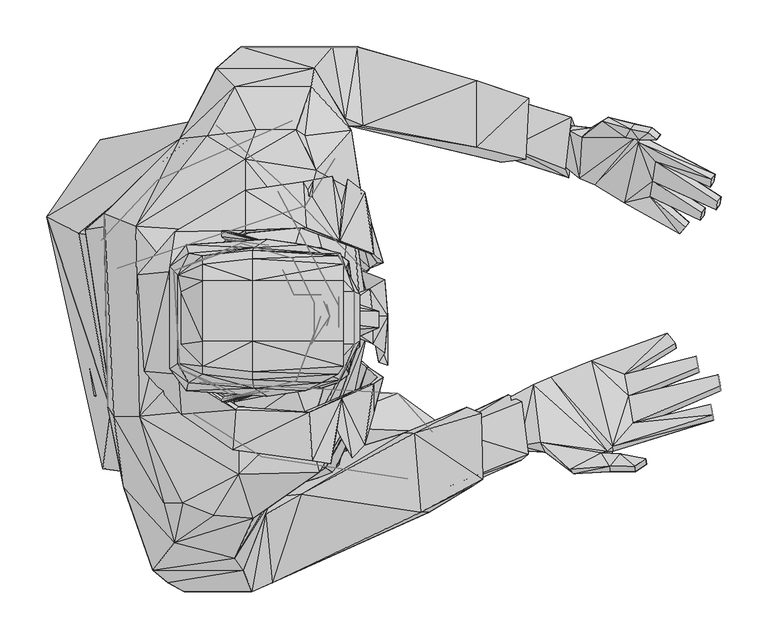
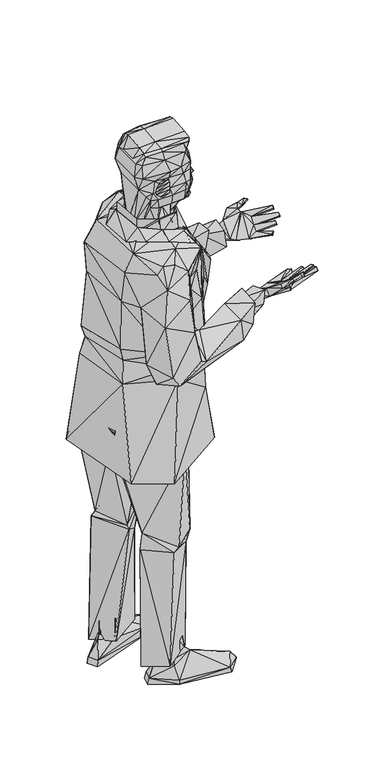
"""IFC4 building model written with IfcOpenShell, lengths in millimetres: geographic element geometry, Man10[1] : Man10[1]."""

from ifc_helpers import new_model, si_unit, origin, place, context, project, spatial, triangles, source, transform, mapped, element, save


def geographic_element_af0ef37f(model_context):
    return source(origin(), model_context, "Body", "Tessellation", [
        triangles([(250.4566601, 106.7888578, 1726.5831287), (241.6392659, 112.6671418, 1711.8873688), (241.6392659, 150.8760015, 1720.7048538), (235.7609546, 162.6325695, 1729.5223389), (241.6392659, 86.2148593, 1711.8873688), (250.4566601, 92.0931433, 1726.5831287), (241.6392659, 48.0059951, 1720.7048538), (235.7609546, 36.2494294, 1729.5223389)], [[1, 2, 3], [1, 3, 4], [5, 6, 7], [7, 6, 8]], closed=False),
        triangles([(157.8736485, 15.6754297, 1758.9137135), (71.1689617, 21.5537103, 1758.9137135), (112.3170269, 27.4319761, 1735.4006138), (154.9345837, 21.5537103, 1735.4006138), (143.1779339, 24.4928659, 1800.0616379), (74.1081219, 30.3711454, 1800.0616379), (88.8038364, 39.1885782, 1820.6358181), (141.708456, 33.3102919, 1823.5748829), (141.708456, 42.1277202, 1829.4530125), (88.8038364, 48.0060042, 1826.514093), (141.708456, 74.4582958, 1835.3314327), (88.8038364, 74.4582958, 1832.3922226), (141.708456, 139.1194425, 1841.2097076), (88.8038364, 139.1194425, 1838.2704975), (88.8038364, 156.7542945, 1832.3922226), (141.708456, 162.6325876, 1835.3314327), (141.708456, 171.4500182, 1829.4530125), (88.8038364, 165.5717251, 1826.514093), (143.1779339, 174.3891375, 1800.0616379), (74.1081219, 168.5108625, 1800.0616379), (157.8736485, 183.206568, 1758.9137135), (71.1689617, 177.3282931, 1758.9137135), (112.3170269, 174.3891375, 1735.4006138), (154.9345837, 180.2674305, 1735.4006138), (197.5521313, 177.3282931, 1758.9137135), (215.1870106, 168.5108625, 1800.0616379), (197.5521313, 21.5537103, 1758.9137135), (215.1870106, 30.3711454, 1800.0616379), (232.8218898, 39.1885782, 1826.514093), (238.7001102, 48.0060042, 1832.3922226), (238.7001102, 74.4582958, 1838.2704975), (238.7001102, 139.1194425, 1844.1489178), (238.7001102, 156.7542945, 1838.2704975), (232.8218898, 165.5717251, 1832.3922226), (62.351572, 144.9977175, 1800.0616379), (62.351572, 50.9451462, 1800.0616379), (65.2907322, 71.5191493, 1803.000848), (65.2907322, 127.3628564, 1803.000848), (53.534087, 153.8151389, 1758.9137135), (53.534087, 45.0668576, 1758.9137135), (71.1689617, 147.9368549, 1706.0092392), (71.1689617, 48.0059951, 1706.0092392), (85.8646717, 30.3711363, 1688.3742691), (103.4995419, 21.5537057, 1697.1917542), (124.0735768, 24.4928523, 1667.8003796), (100.5603863, 30.3711136, 1667.8003796), (124.0735768, 171.4499818, 1667.8003796), (100.5603863, 165.5717069, 1667.8003796), (103.4995419, 177.3282931, 1697.1917542), (85.8646717, 168.5108625, 1688.3742691), (221.065231, 39.1885782, 1811.8183331), (229.882716, 71.5191493, 1811.8183331), (229.882716, 127.3628564, 1811.8183331), (221.065231, 159.693432, 1811.8183331)], [[1, 2, 3], [1, 3, 4], [1, 5, 2], [2, 5, 6], [7, 6, 5], [7, 5, 8], [9, 10, 8], [7, 8, 10], [11, 12, 10], [11, 10, 9], [13, 14, 11], [12, 11, 14], [15, 14, 13], [15, 13, 16], [17, 18, 16], [15, 16, 18], [19, 20, 18], [19, 18, 17], [21, 22, 19], [19, 22, 20], [23, 22, 21], [23, 21, 24], [25, 21, 19], [25, 19, 26], [5, 1, 27], [5, 27, 28], [29, 8, 28], [28, 8, 5], [9, 8, 29], [9, 29, 30], [11, 9, 30], [11, 30, 31], [32, 13, 31], [11, 31, 13], [33, 16, 13], [33, 13, 32], [33, 34, 16], [16, 34, 17], [26, 19, 17], [26, 17, 34], [35, 36, 37], [37, 38, 35], [39, 40, 35], [36, 35, 40], [41, 42, 40], [40, 39, 41], [3, 2, 42], [42, 2, 40], [42, 43, 44], [42, 44, 3], [45, 44, 46], [46, 44, 43], [47, 48, 49], [49, 48, 50], [49, 50, 41], [49, 41, 23], [23, 41, 22], [22, 41, 39], [35, 20, 39], [39, 20, 22], [36, 40, 6], [6, 40, 2], [15, 18, 35], [35, 18, 20], [35, 38, 14], [35, 14, 15], [14, 38, 12], [12, 38, 37], [37, 36, 10], [37, 10, 12], [10, 36, 7], [7, 36, 6], [51, 30, 29], [51, 29, 28], [51, 52, 30], [30, 52, 31], [53, 32, 31], [53, 31, 52], [54, 33, 53], [53, 33, 32], [34, 33, 54], [34, 54, 26]], closed=False),
        triangles([(257.4868451, 3.8371968, 927.4628654), (254.4540905, 30.289487, 996.6960669), (240.6595837, -44.9035773, 1010.5753069), (258.6924946, -63.3548902, 839.4518858), (116.5624073, -79.8467432, 735.60212), (127.5025372, -80.8264255, 1096.7901026), (-9.167609, 1.3062783, 1079.6451462), (-17.8101048, -61.1608426, 771.8515789), (-77.5060704, 207.7690041, 785.2410233), (-43.4575718, 189.901272, 1086.5031578), (106.9286022, 315.4679898, 1047.641213), (-20.3966724, 289.6296869, 735.7655548), (185.7955815, 259.9508298, 993.9201462), (250.9465466, 146.222352, 997.5124414), (223.5145001, 172.0214767, 885.1718422), (179.5907277, 287.8726902, 813.8160233), (-26.3125904, 186.6355738, 1141.3671782), (103.4995419, 305.3442982, 1131.0801607), (1.1194569, 15.0222844, 1151.6541229), (113.7865139, -80.0099964, 1144.7961113), (224.8208157, -62.3751489, 1131.0801607), (175.5085277, 240.1932786, 1124.2221491), (262.5398433, 149.1614985, 1131.0801607), (257.1514004, 52.8229249, 1134.5091665), (-36.5995579, 193.330296, 1179.0861694), (103.4995419, 315.4679898, 1175.657091), (-9.167609, 11.5932876, 1196.2311258), (96.6415303, -67.2737098, 1189.3731142), (228.4131473, -66.1307064, 1185.9441811), (175.5085277, 240.1932786, 1168.7990793), (266.9485858, 152.4272149, 1185.9441811), (264.0094121, 46.2915013, 1185.9441811), (243.9252819, 284.11716, 1322.6143272), (244.088535, 240.1932786, 1326.5331287), (274.949551, 36.0045156, 1336.8201462), (220.0855488, -60.4157027, 1340.249152), (274.949551, 158.4687974, 1336.8201462), (155.5783489, -88.17426, 1313.1981869), (4.7998524, -81.7635049, 1394.4535469), (-12.7598316, 4.7353035, 1371.110059), (-16.1888863, 196.7593018, 1360.8231869), (70.8424282, 287.38284, 1338.9428364), (-16.3521507, 210.4753069, 1456.835059), (-6.2284472, -5.5516744, 1473.9802334), (257.8045582, 231.0493236, 1446.5481869), (268.0915393, 168.1026571, 1446.5481869), (268.0915393, 29.3098093, 1446.5481869), (202.9405742, -56.9866924, 1446.5481869), (17.6112797, 197.2491702, 1529.0073978), (21.2035999, -5.5516693, 1532.2731869), (58.9225163, 145.6508934, 1566.5630997), (134.3605488, 189.9013265, 1556.2760822), (134.3605488, 268.7683149, 1545.9892101), (65.7805279, 42.4543263, 1566.5630997), (127.5025372, 4.7353206, 1566.5630997), (127.5025372, -67.2736735, 1549.4180706), (213.2275372, -65.3142546, 1521.9861694), (196.0825626, -0.9796786, 1546.4790058), (209.7985858, 257.0117287, 1521.9861694), (192.6535931, 195.616312, 1543.2132168), (247.5175953, 299.6293127, 1456.835059), (198.2052891, 293.9143091, 1505.4942982), (188.4081219, 300.4457418, 1521.8229527), (145.9538364, 300.4457418, 1521.8229527), (93.7023746, 293.9143091, 1505.4942982), (64.3109501, 290.6485927, 1446.7114037), (160.3880299, -97.9714, 1415.1192913), (152.5458668, -107.76854, 1464.0029354), (142.9682628, -114.2999727, 1493.2851597), (100.3665936, -111.0342382, 1528.8837135), (67.3427418, -97.9713909, 1525.4029667), (47.2713879, -97.9713909, 1502.656826), (271.3572194, 29.3098093, 1446.5481869), (202.6139408, -0.979678, 1553.0104385), (124.236848, 1.4696052, 1576.3603214), (62.5148388, 39.18861, 1582.8917542), (52.3911335, 148.9166098, 1582.8917542), (134.3605488, 193.1670429, 1569.3389477), (199.1849895, 195.616312, 1549.7447948), (271.3572194, 168.1026571, 1446.5481869), (281.48102, 158.4687974, 1336.8201462), (267.3923451, 152.4272149, 1185.9441811), (264.78233, 149.1614985, 1131.0801607), (281.48102, 36.0045156, 1336.8201462), (266.4318478, 46.2915013, 1185.9441811), (259.3939053, 52.8229249, 1134.5091665), (19.7340176, 145.6508934, 1543.7031578), (58.9225163, 191.3708952, 1556.7660233), (134.3605488, 235.6213011, 1555.2185886), (195.9192913, 244.6020211, 1535.6241451), (26.5920292, 42.4543218, 1543.7031578), (65.7805279, -3.2656814, 1556.7660233), (120.9711498, -40.9846758, 1560.0316669), (205.8797298, -53.2311031, 1533.4161404), (268.4181546, 200.923092, 1336.8201462), (261.5601429, 233.416948, 1446.5481869), (260.4170986, 168.7557786, 1185.9441811), (261.5601429, -36.0044702, 1446.5481869), (271.6838528, 0.0816602, 1336.8201462), (264.0094121, 33.2286426, 1185.9441811), (236.9855892, 14.1650692, 1499.77924), (225.5556546, -56.0477917, 1511.2093563), (248.4155964, -49.5163589, 1475.2864037), (232.087051, -20.1249367, 1496.5135963), (227.1068317, 250.4394918, 1509.0475697), (235.2711589, 181.8594845, 1498.1464909), (243.4353772, 247.1737754, 1482.9218388), (236.9039989, 219.4151864, 1499.2504932), (132.200697, -169.8171237, 1315.1188545), (123.1877842, -156.7542764, 1424.7429771), (58.2591847, -140.4256855, 1470.8118221), (35.6014606, -169.8171237, 1364.7026012), (51.633717, -182.8799709, 1191.9864721), (13.8588924, -96.8155749, 1200.0265337), (141.2895862, -192.6771382, 1225.37971), (156.0192013, -109.8566393, 1272.3464653), (163.1287601, -182.8799709, 1209.4215998), (193.9601994, -88.79577, 1254.9671482), (69.1863293, -192.6771382, 1163.33575), (43.8654911, -103.3470258, 1124.6918879), (330.3929509, -107.7685673, 1181.5043358), (302.9779637, -23.481495, 1153.4173874), (321.5370961, -107.7685673, 1255.1486778), (314.7111683, -23.481486, 1264.2160023), (385.9351275, -2.1856179, 1280.3812946), (387.4772573, -72.9194272, 1272.3647781), (377.7265079, -79.4508644, 1204.0839895), (370.6657107, 4.3457998, 1174.8253103), (381.0852056, 281.4729355, 1283.4257309), (230.8624164, 307.5986664, 1126.6714182), (407.2109365, 265.7735304, 1185.1360182), (433.3366673, 269.0392467, 1302.9576782), (260.2538273, 304.3329319, 1244.2371346), (126.3595837, 302.5556057, 1113.6085527), (240.6595837, 312.3309357, 1250.7685673), (90.4366764, 302.5556057, 1224.6428364), (371.2881291, 352.6971854, 1205.0485382), (426.8053073, 333.9644989, 1217.7931818), (381.0852056, 352.6971854, 1267.0972218), (436.6023837, 333.9644989, 1289.8949581), (253.7224491, 388.6200291, 1227.9086254), (201.4709873, 388.6200291, 1152.7971491), (129.6252728, 388.6200291, 1221.3770473), (227.5967182, 388.6200291, 1237.7057018), (208.0023655, 365.7599782, 1329.14576), (103.4995419, 365.7599782, 1342.2086254), (204.7366855, 346.1657527, 1456.5086254), (123.0937946, 346.1657527, 1456.5086254)], [[1, 2, 3], [1, 3, 4], [4, 3, 5], [5, 3, 6], [6, 7, 8], [6, 8, 5], [8, 7, 9], [9, 7, 10], [9, 10, 11], [9, 11, 12], [13, 14, 15], [13, 15, 16], [12, 11, 16], [16, 11, 13], [10, 17, 18], [10, 18, 11], [10, 7, 17], [17, 7, 19], [20, 19, 7], [20, 7, 6], [3, 21, 6], [6, 21, 20], [22, 23, 14], [22, 14, 13], [24, 21, 3], [24, 3, 2], [13, 11, 22], [22, 11, 18], [17, 25, 26], [17, 26, 18], [19, 27, 17], [17, 27, 25], [28, 27, 19], [28, 19, 20], [21, 29, 20], [20, 29, 28], [30, 31, 23], [30, 23, 22], [32, 29, 21], [32, 21, 24], [22, 18, 30], [30, 18, 26], [26, 33, 30], [30, 33, 34], [35, 36, 29], [35, 29, 32], [34, 37, 31], [34, 31, 30], [28, 29, 38], [38, 29, 36], [28, 39, 40], [28, 40, 27], [25, 27, 41], [41, 27, 40], [25, 41, 42], [25, 42, 26], [41, 40, 43], [43, 40, 44], [45, 46, 37], [45, 37, 34], [47, 48, 36], [47, 36, 35], [43, 44, 49], [49, 44, 50], [49, 51, 52], [49, 52, 53], [49, 50, 51], [51, 50, 54], [55, 54, 50], [55, 50, 56], [57, 58, 56], [56, 58, 55], [59, 53, 60], [60, 53, 52], [45, 61, 59], [59, 61, 62], [59, 62, 63], [59, 63, 53], [53, 63, 64], [53, 64, 65], [53, 65, 49], [43, 49, 66], [66, 49, 65], [45, 34, 33], [45, 33, 61], [41, 43, 66], [41, 66, 42], [42, 33, 26], [38, 36, 67], [67, 36, 48], [48, 57, 68], [48, 68, 67], [68, 57, 69], [69, 57, 56], [69, 56, 70], [70, 56, 71], [71, 56, 50], [50, 44, 72], [50, 72, 71], [72, 44, 39], [39, 44, 40], [28, 38, 39], [48, 47, 57], [57, 47, 58], [59, 60, 45], [45, 60, 46], [47, 73, 74], [47, 74, 58], [58, 74, 55], [55, 74, 75], [75, 76, 54], [75, 54, 55], [54, 76, 51], [51, 76, 77], [51, 77, 78], [51, 78, 52], [52, 78, 60], [60, 78, 79], [79, 80, 46], [79, 46, 60], [46, 80, 37], [81, 37, 80], [37, 81, 82], [82, 31, 37], [31, 82, 23], [83, 23, 82], [73, 47, 35], [35, 84, 73], [84, 35, 85], [32, 85, 35], [85, 32, 24], [24, 86, 85], [77, 87, 88], [77, 88, 78], [78, 88, 89], [89, 90, 79], [89, 79, 78], [87, 77, 91], [91, 77, 76], [91, 76, 92], [93, 92, 75], [75, 92, 76], [94, 93, 74], [74, 93, 75], [81, 80, 95], [95, 80, 96], [81, 95, 97], [81, 97, 82], [82, 97, 83], [98, 73, 99], [99, 73, 84], [84, 85, 100], [84, 100, 99], [100, 85, 86], [94, 74, 101], [94, 101, 102], [73, 98, 101], [101, 98, 103], [101, 103, 104], [101, 104, 102], [90, 105, 106], [90, 106, 79], [107, 96, 106], [106, 96, 80], [107, 106, 108], [108, 106, 105], [38, 67, 109], [109, 67, 110], [110, 111, 112], [110, 112, 109], [112, 111, 39], [39, 111, 72], [72, 111, 71], [71, 111, 70], [69, 70, 111], [69, 111, 110], [67, 68, 110], [110, 68, 69], [113, 112, 114], [114, 112, 39], [109, 112, 113], [109, 113, 115], [115, 116, 109], [109, 116, 38], [116, 115, 117], [116, 117, 118], [117, 115, 119], [119, 115, 113], [113, 114, 120], [113, 120, 119], [121, 119, 122], [122, 119, 120], [117, 119, 121], [117, 121, 123], [124, 118, 123], [123, 118, 117], [125, 124, 126], [126, 124, 123], [123, 121, 127], [123, 127, 126], [128, 127, 122], [122, 127, 121], [38, 116, 114], [38, 114, 39], [114, 116, 120], [120, 116, 118], [118, 124, 122], [118, 122, 120], [122, 124, 128], [128, 124, 125], [129, 130, 131], [129, 131, 132], [129, 133, 130], [130, 133, 134], [135, 136, 134], [135, 134, 133], [135, 33, 136], [136, 33, 42], [137, 138, 131], [137, 131, 130], [137, 139, 138], [138, 139, 140], [129, 132, 140], [129, 140, 139], [133, 129, 139], [133, 139, 141], [142, 141, 137], [137, 141, 139], [142, 137, 130], [142, 130, 134], [136, 143, 134], [134, 143, 142], [144, 141, 142], [142, 143, 144], [144, 135, 141], [141, 135, 133], [135, 144, 145], [135, 145, 33], [146, 145, 143], [143, 145, 144], [146, 143, 136], [146, 136, 42], [62, 61, 147], [62, 147, 63], [63, 147, 64], [148, 64, 147], [148, 66, 65], [148, 65, 64], [146, 42, 66], [146, 66, 148], [147, 145, 148], [148, 145, 146], [61, 33, 145], [61, 145, 147]], closed=False),
        triangles([(417.4872714, 15.2063518, 1236.8958675), (426.5448581, -36.8748295, 1262.6046181), (441.7307407, 28.2838295, 1239.9131252), (449.0942448, -33.116229, 1277.2083778), (520.3997761, -42.8683227, 1269.6655243), (460.2598423, 36.0999222, 1226.817849), (503.5494601, 54.0209759, 1225.4698208), (526.0866383, -37.448693, 1271.1741531), (632.9766254, -4.0360752, 1271.3347538), (630.9639576, 7.5375276, 1265.6217304), (548.2899342, -12.639355, 1253.8744823), (640.8143011, 27.1361253, 1257.0521954), (638.8016333, 38.7097148, 1251.339172), (543.2578649, 16.2946324, 1239.5917786), (617.4843298, 46.9260056, 1245.6261486), (615.4715166, 58.4996042, 1239.9131252), (539.2323475, 39.4418194, 1228.1657318), (593.1476612, 72.502683, 1231.3435902), (584.7001027, 82.957182, 1225.6305668), (480.6273854, -61.9534677, 1297.2843327), (514.006162, -44.2248033, 1291.5713093), (534.072379, -45.2471473, 1297.3647057), (523.2154836, -59.0589496, 1303.077729), (549.7165913, -58.9622032, 1308.8711254), (561.5798206, -50.937207, 1306.0146137), (524.1943119, -64.6875078, 1291.3303356), (535.2959599, -52.2828371, 1282.6805729), (550.6954196, -64.5907568, 1297.123732), (562.558649, -56.5657515, 1294.2672203), (515.7192478, -54.0747562, 1271.0135525), (484.8236409, -67.022467, 1285.5370846), (454.2695103, -43.8137728, 1253.7137363), (521.6233569, -49.9040124, 1254.9813915), (544.2366932, 10.6660754, 1227.8445305), (527.0516956, -42.9981113, 1252.1248798), (506.0240911, 39.791353, 1210.7053877), (540.2111758, 33.8132681, 1216.4184837), (549.2687625, -18.2679132, 1242.1270889), (594.1266712, 66.8741385, 1219.5961967), (585.678931, 77.3286284, 1213.8831734), (618.4631945, 41.2974565, 1233.8787552), (616.4503086, 52.8710506, 1228.1657318), (641.7933111, 21.5075785, 1245.3049473), (639.7804979, 33.081168, 1239.5917786), (631.9427496, 1.9089815, 1253.8744823), (633.9556355, -9.6646206, 1259.5875057), (462.0004337, 26.0917145, 1220.8638519), (443.1990741, 19.8410105, 1222.2921078), (427.5236501, -42.5033786, 1250.8572247), (418.4660634, 9.5777936, 1225.1486195), (185.7955815, 124.4237189, 1573.7476902), (185.7955815, 71.5191493, 1573.7476902), (191.6738201, 127.3628564, 1544.3563156), (191.6738201, 68.5800027, 1544.3563156), (215.1870106, 124.423728, 1609.0173397), (215.1870106, 62.7017187, 1609.0173397), (71.1689617, 147.936864, 1706.0092392), (65.2907322, 97.9714364, 1573.7476902), (71.1689617, 48.0060133, 1706.0092392), (174.0389408, 150.8760015, 1573.7476902), (185.7955815, 124.423728, 1611.9565498), (156.4041706, 124.423728, 1614.89576), (156.4041706, 156.7542945, 1573.7476902), (100.5603863, 165.5717251, 1667.8003796), (106.4387066, 150.8760105, 1632.5305847), (85.8646717, 139.1194244, 1573.7476902), (124.0735768, 162.6325695, 1573.7476902), (71.1689617, 121.4845633, 1573.7476902), (85.8646717, 168.5108807, 1688.3742691), (185.7955815, 153.8151389, 1544.3563156), (174.0389408, 159.693432, 1544.3563156), (129.9518063, 165.5717069, 1544.3563156), (71.1689617, 142.05858, 1544.3563156), (59.4124119, 124.4237189, 1544.3563156), (53.534087, 97.9714273, 1544.3563156), (129.9518063, 162.6325876, 1632.5305847), (124.0735768, 33.3102919, 1573.7476902), (129.9518063, 33.3102964, 1632.5305847), (106.4387066, 42.1277293, 1632.5305847), (156.4041706, 62.7017187, 1614.89576), (156.4041706, 39.1885782, 1573.7476902), (172.5694629, 33.3102964, 1632.5305847), (185.7955815, 62.7017187, 1611.9565498), (215.1870106, 36.2494407, 1632.5305847), (59.4124119, 71.5191447, 1544.3563156), (71.1689617, 74.4582958, 1573.7476902), (71.1689617, 53.8842836, 1544.3563156), (85.8646717, 56.8234347, 1573.7476902), (129.9518063, 30.3711454, 1544.3563156), (174.0389408, 36.2494316, 1544.3563156), (185.7955815, 42.1277202, 1544.3563156), (174.0389408, 45.0668667, 1573.7476902), (85.8646717, 30.3711567, 1688.3742691), (100.5603863, 30.3711567, 1667.8003796), (127.0127415, 12.7363058, 1738.3396786), (115.2560917, 9.797157, 1732.461549), (153.4649968, 21.5537307, 1729.5223389), (147.5866764, 18.6145933, 1738.3396786), (159.3432353, 21.5537284, 1720.7048538), (109.3778713, 9.7971548, 1720.7048538), (109.3778713, 12.7363036, 1706.0092392), (159.3432353, 21.5537284, 1706.0092392), (159.3432353, 21.5537284, 1694.252544), (112.3170269, 15.675441, 1694.252544), (127.0127415, 18.6145887, 1679.5567841), (159.3432353, 23.1137213, 1679.5567841), (153.4649968, 23.9457177, 1670.7394444), (138.7692913, 23.9457177, 1670.7394444), (153.4649968, 172.3656963, 1670.7394444), (159.3432353, 174.3891556, 1679.5567841), (138.7692913, 172.3656963, 1670.7394444), (127.0127415, 177.3282931, 1679.5567841), (159.3432353, 177.3282931, 1694.252544), (112.3170269, 183.2065862, 1694.252544), (159.3432353, 177.3282931, 1706.0092392), (109.3778713, 186.1457236, 1706.0092392), (159.3432353, 180.2674487, 1720.7048538), (109.3778713, 192.0240167, 1720.7048538), (153.4649968, 180.2674487, 1729.5223389), (115.2560917, 192.0240167, 1732.461549), (127.0127415, 189.0848793, 1738.3396786), (147.5866764, 183.2066043, 1738.3396786), (172.5694629, 159.693432, 1632.5305847), (169.6302891, 24.492875, 1667.8003796), (124.0735768, 24.492875, 1667.8003796), (159.3432353, 21.5537284, 1697.1917542), (103.4995419, 21.5537284, 1697.1917542), (154.9345837, 21.5537307, 1735.4006138), (112.3170269, 27.432017, 1735.4006138), (154.9345837, 180.2674487, 1735.4006138), (159.3432353, 177.3282931, 1697.1917542), (112.3170269, 174.3891556, 1735.4006138), (103.4995419, 177.3282931, 1697.1917542), (169.6302891, 171.4500182, 1667.8003796), (124.0735768, 171.4500182, 1667.8003796), (215.1870106, 156.7542945, 1632.5305847), (215.1870106, 168.5108807, 1667.8003796), (209.3086812, 174.3891556, 1729.5223389), (197.5521313, 177.3283113, 1758.9137135), (157.8736485, 183.2066043, 1758.9137135), (215.1870106, 27.4320124, 1667.8003796), (215.1870106, 24.4928773, 1697.1917542), (209.3086812, 27.432017, 1729.5223389), (197.5521313, 21.553733, 1758.9137135), (157.8736485, 15.6754456, 1758.9137135), (215.1870106, 174.3891556, 1697.1917542), (235.7609546, 33.3103055, 1758.9137135), (221.065231, 39.1886009, 1811.8183331), (215.1870106, 30.3711658, 1800.0616379), (250.4566601, 71.5191856, 1764.7921337), (229.882716, 71.5191674, 1811.8183331), (250.4566601, 127.3628745, 1764.7921337), (229.882716, 127.3628745, 1811.8183331), (235.7609546, 168.5108807, 1758.9137135), (221.065231, 159.6934502, 1811.8183331), (215.1870106, 168.5108807, 1800.0616379), (235.7609546, 162.6326058, 1729.5223389), (232.8218898, 168.5108807, 1697.1917542), (229.882716, 162.6325876, 1667.8003796), (226.9435604, 147.936864, 1632.5305847), (250.4566601, 115.6063065, 1606.0782749), (250.4566601, 71.5191493, 1606.0782749), (226.9435604, 45.0668713, 1632.5305847), (229.882716, 33.310301, 1667.8003796), (232.8218898, 30.3711567, 1697.1917542), (235.7609546, 36.2494475, 1729.5223389), (238.7001102, 139.1194425, 1635.4697948), (256.3349895, 121.4845814, 1620.7740349), (247.5175953, 115.6063065, 1641.3480698), (256.3349895, 68.58003, 1620.7740349), (238.7001102, 53.8842973, 1635.4697948), (247.5175953, 74.4583004, 1641.3480698), (256.3349895, 74.4583049, 1735.4006138), (256.3349895, 124.4237371, 1735.4006138), (241.6392659, 42.1277293, 1667.8003796), (244.5784397, 39.1885873, 1688.3742691), (241.6392659, 48.0060133, 1720.7048538), (241.6392659, 153.8151571, 1667.8003796), (244.5784397, 159.693432, 1688.3742691), (241.6392659, 150.8760287, 1720.7048538), (250.4566601, 68.5800118, 1650.1654095), (250.4566601, 127.3628654, 1650.1654095), (250.4566601, 77.3974378, 1670.7394444), (250.4566601, 115.6063065, 1670.7394444), (241.6392659, 86.2148774, 1711.8873688), (241.6392659, 112.6671509, 1711.8873688), (250.4566601, 106.788876, 1726.5831287), (250.4566601, 92.0931614, 1726.5831287), (276.9090244, 106.7888669, 1676.6175739), (276.9090244, 89.1540149, 1676.6175739), (479.7964405, 299.3649211, 1287.7979931), (474.2936877, 262.0580413, 1259.7018883), (490.8048892, 248.5298337, 1265.6853893), (493.1274219, 292.2531459, 1303.3758213), (549.9119282, 291.8658149, 1314.6324017), (507.2556293, 241.3684612, 1258.8541203), (538.8174382, 222.1157483, 1265.1181274), (553.383991, 286.7703774, 1316.3455238), (630.2469229, 239.113766, 1329.5883202), (631.4697407, 247.4041756, 1335.8319798), (572.0838306, 266.2231577, 1304.9834267), (637.9798084, 223.3408007, 1322.7805962), (636.7568453, 215.050391, 1316.5370819), (569.0266408, 245.4971336, 1289.374641), (621.1833773, 211.7659985, 1306.4570286), (619.9605595, 203.4755888, 1300.2135143), (566.5808599, 228.9163143, 1276.8874672), (603.7755009, 196.0460096, 1287.0117039), (597.7690724, 189.4242662, 1279.4893433), (514.9245289, 309.0955227, 1329.2168312), (540.01097, 291.6274029, 1330.0067539), (553.9673129, 289.4124218, 1338.9599865), (545.6232365, 301.0401823, 1342.6460987), (564.362972, 297.156553, 1352.8780323), (573.318639, 289.6739792, 1352.3139679), (558.9960757, 296.1831749, 1328.9847233), (549.646065, 306.4568029, 1334.6657719), (568.3859822, 302.5731555, 1344.8978508), (577.3416492, 295.0905818, 1344.3336411), (547.051238, 301.1064573, 1316.0413273), (521.3392536, 313.6778011, 1321.8760002), (503.5649388, 302.2520269, 1288.0546635), (554.9405093, 298.6365681, 1304.6571384), (559.1125294, 292.8226969, 1302.8142277), (573.0496511, 250.9137361, 1281.3943142), (545.4633625, 234.3858569, 1256.2695396), (570.6038701, 234.3329168, 1268.9071404), (576.1068409, 271.6397603, 1297.0032452), (607.7985111, 201.4626121, 1279.031377), (601.7920827, 194.8408688, 1271.5090164), (625.2063875, 217.182601, 1298.4767017), (623.9833517, 208.8921913, 1292.2331875), (642.0026007, 228.7574032, 1314.8004147), (640.7798555, 220.4669935, 1308.5567551), (635.4927509, 252.8207781, 1327.8516529), (634.2699331, 244.5303685, 1321.6081387), (510.8840778, 249.5761179, 1255.9906322), (496.8391866, 256.6547374, 1253.7150444), (478.31648, 267.474662, 1251.7215614), (483.8194508, 304.7815237, 1279.8176662)], [[1, 2, 3], [3, 2, 4], [3, 4, 5], [3, 5, 6], [7, 6, 8], [8, 6, 5], [9, 10, 11], [9, 11, 8], [11, 12, 13], [13, 14, 11], [14, 15, 16], [16, 17, 14], [17, 18, 19], [17, 19, 7], [8, 11, 14], [14, 17, 7], [8, 14, 7], [4, 20, 21], [4, 21, 5], [22, 21, 23], [23, 21, 20], [22, 23, 24], [22, 24, 25], [26, 27, 28], [28, 27, 29], [30, 27, 26], [30, 26, 31], [31, 32, 30], [30, 32, 33], [34, 35, 36], [37, 34, 36], [38, 35, 34], [39, 37, 40], [40, 37, 36], [41, 34, 42], [37, 42, 34], [43, 38, 44], [34, 44, 38], [45, 46, 38], [38, 46, 35], [47, 36, 35], [47, 35, 33], [33, 32, 47], [47, 32, 48], [49, 50, 48], [48, 32, 49], [50, 1, 48], [3, 48, 1], [48, 3, 6], [48, 6, 47], [47, 6, 36], [36, 6, 7], [7, 19, 40], [7, 40, 36], [40, 19, 39], [18, 39, 19], [39, 18, 17], [17, 37, 39], [37, 17, 42], [16, 42, 17], [42, 16, 15], [15, 41, 42], [41, 15, 34], [14, 34, 15], [34, 14, 13], [13, 44, 34], [44, 13, 43], [12, 43, 13], [43, 12, 11], [11, 38, 43], [38, 11, 45], [10, 45, 11], [45, 10, 9], [9, 46, 45], [35, 46, 8], [8, 46, 9], [35, 8, 5], [35, 5, 33], [33, 5, 30], [21, 30, 5], [30, 21, 22], [22, 27, 30], [27, 22, 29], [25, 29, 22], [29, 25, 24], [24, 28, 29], [28, 24, 26], [23, 26, 24], [23, 20, 31], [23, 31, 26], [32, 31, 4], [4, 31, 20], [32, 4, 2], [32, 2, 49], [51, 52, 53], [54, 53, 52], [55, 56, 52], [52, 51, 55], [57, 58, 59], [51, 60, 61], [51, 61, 55], [61, 60, 62], [62, 60, 63], [64, 65, 66], [66, 65, 67], [64, 66, 68], [64, 68, 69], [69, 68, 57], [57, 68, 58], [51, 53, 60], [60, 53, 70], [60, 70, 71], [60, 71, 63], [67, 63, 72], [72, 63, 71], [72, 73, 66], [72, 66, 67], [73, 74, 68], [73, 68, 66], [68, 74, 58], [58, 74, 75], [62, 63, 76], [76, 63, 67], [76, 67, 65], [77, 78, 79], [80, 78, 77], [80, 77, 81], [78, 80, 82], [82, 80, 83], [84, 82, 83], [84, 83, 56], [85, 86, 58], [85, 58, 75], [85, 87, 86], [86, 87, 88], [87, 89, 88], [88, 89, 77], [81, 77, 89], [81, 89, 90], [91, 92, 90], [90, 92, 81], [54, 52, 92], [54, 92, 91], [86, 93, 59], [86, 59, 58], [88, 94, 86], [86, 94, 93], [79, 94, 88], [79, 88, 77], [92, 83, 80], [92, 80, 81], [92, 52, 83], [83, 52, 56], [95, 96, 97], [95, 97, 98], [99, 97, 100], [100, 97, 96], [99, 100, 101], [99, 101, 102], [103, 102, 104], [104, 102, 101], [103, 104, 105], [103, 105, 106], [107, 106, 108], [108, 106, 105], [109, 110, 111], [111, 110, 112], [113, 114, 112], [113, 112, 110], [113, 115, 114], [114, 115, 116], [117, 118, 116], [117, 116, 115], [117, 119, 118], [118, 119, 120], [121, 120, 119], [121, 119, 122], [123, 61, 62], [123, 62, 76], [124, 125, 82], [78, 82, 125], [126, 127, 125], [125, 124, 126], [128, 129, 126], [126, 129, 127], [130, 131, 132], [132, 131, 133], [134, 135, 133], [133, 131, 134], [123, 76, 134], [134, 76, 135], [123, 136, 61], [61, 136, 55], [137, 136, 123], [137, 123, 134], [138, 130, 139], [139, 130, 140], [84, 141, 82], [82, 141, 124], [142, 126, 124], [142, 124, 141], [143, 128, 126], [143, 126, 142], [143, 144, 128], [128, 144, 145], [146, 131, 138], [138, 131, 130], [134, 131, 146], [134, 146, 137], [125, 94, 79], [125, 79, 78], [65, 64, 135], [65, 135, 76], [147, 148, 149], [147, 149, 144], [147, 150, 148], [148, 150, 151], [152, 153, 151], [151, 150, 152], [154, 155, 152], [152, 155, 153], [156, 155, 154], [156, 154, 139], [138, 139, 154], [138, 154, 157], [158, 146, 157], [157, 146, 138], [137, 146, 158], [137, 158, 159], [160, 136, 159], [159, 136, 137], [55, 136, 160], [55, 160, 161], [162, 56, 161], [55, 161, 56], [163, 84, 56], [163, 56, 162], [163, 164, 84], [84, 164, 141], [142, 141, 164], [142, 164, 165], [166, 143, 165], [142, 165, 143], [147, 144, 143], [147, 143, 166], [160, 167, 161], [161, 167, 168], [169, 168, 167], [170, 171, 162], [162, 171, 163], [172, 171, 170], [168, 170, 162], [162, 161, 168], [173, 150, 147], [173, 147, 166], [174, 152, 173], [150, 173, 152], [157, 154, 152], [157, 152, 174], [175, 164, 163], [175, 163, 171], [175, 176, 164], [164, 176, 165], [177, 166, 165], [177, 165, 176], [178, 167, 160], [178, 160, 159], [158, 179, 159], [159, 179, 178], [180, 179, 158], [180, 158, 157], [181, 175, 171], [181, 171, 172], [182, 169, 167], [182, 167, 178], [183, 176, 175], [183, 175, 181], [182, 178, 184], [184, 178, 179], [168, 169, 170], [172, 170, 169], [182, 184, 181], [183, 181, 184], [183, 185, 176], [176, 185, 177], [186, 184, 179], [186, 179, 180], [187, 174, 188], [173, 188, 174], [174, 187, 157], [188, 173, 166], [189, 184, 186], [189, 186, 187], [185, 183, 190], [185, 190, 188], [189, 190, 183], [183, 184, 189], [187, 188, 190], [190, 189, 187], [191, 192, 193], [191, 193, 194], [194, 193, 195], [195, 193, 196], [196, 197, 198], [196, 198, 195], [199, 200, 201], [201, 200, 198], [202, 201, 203], [204, 203, 201], [205, 204, 206], [207, 206, 204], [208, 207, 209], [209, 207, 197], [201, 198, 204], [207, 204, 197], [204, 198, 197], [210, 194, 211], [211, 194, 195], [211, 212, 213], [211, 213, 210], [213, 212, 214], [214, 212, 215], [216, 217, 218], [216, 218, 219], [216, 220, 217], [217, 220, 221], [222, 221, 220], [222, 220, 223], [224, 225, 226], [225, 227, 226], [224, 228, 225], [227, 229, 230], [227, 230, 226], [225, 231, 232], [232, 227, 225], [228, 233, 234], [234, 225, 228], [235, 236, 228], [235, 228, 224], [226, 237, 224], [224, 237, 223], [222, 223, 237], [222, 237, 238], [239, 240, 238], [222, 238, 240], [192, 239, 238], [238, 193, 192], [193, 238, 196], [196, 238, 237], [196, 237, 226], [196, 226, 197], [209, 197, 230], [230, 197, 226], [209, 230, 229], [229, 208, 209], [208, 229, 207], [227, 207, 229], [207, 227, 232], [232, 206, 207], [206, 232, 205], [231, 205, 232], [205, 231, 225], [225, 204, 205], [204, 225, 203], [234, 203, 225], [203, 234, 233], [233, 202, 203], [202, 233, 201], [228, 201, 233], [201, 228, 236], [236, 199, 201], [199, 236, 200], [235, 200, 236], [235, 224, 198], [235, 198, 200], [198, 224, 195], [195, 224, 223], [195, 223, 220], [220, 211, 195], [211, 220, 212], [216, 212, 220], [212, 216, 219], [219, 215, 212], [215, 219, 214], [218, 214, 219], [214, 218, 217], [217, 213, 214], [210, 213, 221], [221, 213, 217], [221, 222, 194], [221, 194, 210], [194, 222, 191], [191, 222, 240]], closed=False),
        triangles([(247.5175953, 115.6062884, 1641.3480698), (250.4566601, 127.3628564, 1650.1654095), (247.5175953, 74.4582867, 1641.3480698), (250.4566601, 68.5800027, 1650.1654095)], [[1, 2, 3], [4, 3, 2]], closed=False),
        triangles([(204.7366855, 6.5314163, 450.6685673), (129.6252728, -55.5171464, 473.5285455), (119.8281055, -48.9857636, 75.1114173), (198.2052891, -4.17e-05, 91.4400218), (51.2480846, -4.37e-05, 68.58003), (51.2480846, 6.5314185, 473.5285455), (119.8281055, 48.9856728, 75.1114082), (129.6252728, 84.9085618, 473.5285455), (217.799551, 6.5314197, 489.8571636), (145.9538364, 84.9085618, 486.5914109), (57.7795628, 6.5314231, 529.0457236), (145.9538364, -55.5171464, 486.5914109), (217.799551, 16.3285909, 813.1628654), (139.4224491, 101.2371618, 773.9742691), (18.5909676, 101.2371618, 773.9742691), (-17.3318397, 16.3285909, 813.1628654), (165.5480892, -55.5171237, 809.8971491), (224.33102, 16.3285988, 904.6028509), (165.5480892, -62.0485337, 911.1342836), (-27.1290127, 16.3285988, 904.6028509), (227.5967182, 16.3286057, 979.7143272), (165.5480892, -58.7828218, 979.7143272), (-4.268974, 16.3286079, 992.77712), (100.2338528, 271.0543309, 1018.9028509), (185.1424237, 195.9428909, 999.3085527), (100.2338528, 277.5857454, 927.4628654), (181.8767437, 195.9428909, 924.1971491), (-56.5204372, 195.9428909, 930.7285818), (-14.0661472, 195.9428909, 1025.4342836), (100.2338528, 271.0543127, 845.8199564), (198.2052891, 195.9428909, 832.757091), (-53.2547436, 195.9428909, 839.2885963), (162.282391, 195.9428545, 502.9199927), (129.6252728, 114.3000091, 773.9742691), (74.1081219, 120.8314236, 483.3257309), (12.0595837, 114.3000091, 773.9742691), (12.0595837, 195.9428545, 509.4514255), (74.1081219, 257.9914291, 483.3257309), (80.6395092, 120.8314236, 466.9971128), (142.6881382, 195.9428545, 404.9485745), (-1.0032818, 195.9428545, 496.38856), (80.6395092, 257.9914291, 466.9971128), (61.0452564, 248.1942255, 55.5171418), (149.2195255, 205.7399673, 75.1113991), (-4.268974, 205.7399673, 58.78284), (61.0452564, 160.0199564, 55.5171464), (227.5967182, 89.8071818, 966.6514618), (214.5338528, 99.6043127, 857.25), (208.0023655, 132.2614491, 857.25), (221.065231, 122.4643272, 966.6514618), (227.5967182, 19.5943277, 1054.8257309), (165.5480892, -48.9856773, 1067.8885963), (12.0595837, 19.59433, 1074.4199564), (-14.0661472, 186.14576, 1080.9514618), (100.2338528, 261.2571818, 1071.1543127), (185.1424237, 186.14576, 1064.62288), (214.5338528, 122.4643363, 1054.8257309), (221.065231, 89.8071909, 1051.5600145)], [[1, 2, 3], [1, 3, 4], [5, 3, 6], [6, 3, 2], [7, 5, 6], [7, 6, 8], [8, 1, 7], [7, 1, 4], [9, 1, 10], [10, 1, 8], [8, 6, 11], [8, 11, 10], [6, 2, 11], [11, 2, 12], [1, 9, 12], [1, 12, 2], [13, 9, 14], [14, 9, 10], [15, 10, 11], [15, 11, 16], [12, 17, 11], [11, 17, 16], [9, 13, 17], [9, 17, 12], [18, 19, 17], [18, 17, 13], [17, 19, 16], [16, 19, 20], [21, 22, 19], [21, 19, 18], [20, 19, 23], [23, 19, 22], [24, 25, 26], [26, 25, 27], [26, 28, 29], [26, 29, 24], [26, 27, 30], [30, 27, 31], [30, 32, 28], [30, 28, 26], [33, 31, 34], [33, 34, 35], [35, 36, 37], [37, 36, 32], [30, 38, 37], [30, 37, 32], [31, 33, 30], [30, 33, 38], [33, 35, 39], [33, 39, 40], [39, 35, 41], [41, 35, 37], [38, 42, 41], [38, 41, 37], [38, 33, 42], [42, 33, 40], [42, 40, 43], [43, 40, 44], [42, 43, 45], [42, 45, 41], [46, 39, 45], [45, 39, 41], [40, 39, 46], [40, 46, 44], [23, 29, 28], [23, 28, 20], [16, 20, 32], [32, 20, 28], [15, 16, 36], [36, 16, 32], [21, 18, 47], [47, 18, 48], [49, 27, 50], [50, 27, 25], [50, 47, 48], [48, 49, 50], [34, 49, 14], [14, 49, 48], [51, 52, 22], [51, 22, 21], [23, 22, 53], [53, 22, 52], [53, 54, 29], [53, 29, 23], [24, 29, 55], [55, 29, 54], [24, 55, 56], [24, 56, 25], [50, 25, 57], [57, 25, 56], [50, 57, 58], [50, 58, 47], [47, 58, 21], [21, 58, 51], [31, 49, 34], [49, 31, 27], [13, 14, 48], [13, 48, 18], [36, 35, 34], [36, 34, 14], [14, 15, 36], [10, 15, 14]], closed=False),
        triangles([(64.3109501, 45.7200382, 1564.2770473), (64.3109501, 45.7200382, 1554.4799709), (123.0937946, 16.3285909, 1567.5428364), (123.0937946, 9.7971684, 1554.4799709), (57.7795628, 150.22288, 1564.2770473), (57.7795628, 150.22288, 1554.4799709), (129.6252728, 179.6143091, 1570.8086254), (129.6252728, 186.1457781, 1544.6828945), (185.1424237, 169.81716, 1544.6828945), (185.1424237, 163.2857273, 1564.2770473), (208.0023655, 115.9328854, 1564.2770473), (208.0023655, 115.9328854, 1544.6828945), (208.0023655, 83.2757491, 1564.2770473), (208.0023655, 83.2757491, 1544.6828945), (188.4081219, 32.6571795, 1564.2770473), (188.4081219, 26.1257559, 1544.6828945), (129.6252728, 222.0685854, 1534.8856728), (201.4709873, 222.0685854, 1512.0257309), (234.1280964, 80.0100418, 1512.0257309), (204.7366855, -19.5942686, 1512.0257309), (234.1280964, 112.6671509, 1512.0257309), (123.0937946, -19.5942686, 1538.1514618), (256.9881473, 109.4014345, 1440.1799709), (256.9881473, 76.7443163, 1440.1799709), (247.1909619, 225.3342836, 1440.1799709), (194.9395001, -48.9857136, 1440.1799709), (211.2681546, -52.2514391, 1338.9428364), (263.5195255, 80.0100236, 1335.6770473), (263.5195255, 112.6671418, 1335.6770473), (234.1280964, 212.2714182, 1325.8799709), (234.1280964, 122.4642818, 1191.9856728), (240.6595837, 89.8071545, 1191.9856728), (168.8138782, 235.1314146, 1175.657091), (234.1280964, -58.7828718, 1191.9856728), (230.8624164, -48.9857, 1139.7342836), (234.1280964, 89.8071455, 1143.0), (234.1280964, 112.6671327, 1139.7342836), (168.8138782, 235.1314146, 1133.2028509), (230.8624164, -3.2657379, 1080.9514618), (237.3937946, 96.3385691, 1064.62288), (178.6109546, 215.5371164, 1074.4199564), (240.6595837, 128.9956873, 1080.9514618), (221.065231, 89.8071364, 1051.5600145), (214.5338528, 122.4642637, 1054.8257309), (185.1424237, 186.1457236, 1064.62288), (227.5967182, 19.5942618, 1054.8257309), (129.6252728, 176.3485927, 1603.4656437), (185.1424237, 163.2857273, 1600.2), (208.0023655, 83.2757581, 1596.9343563), (188.4081219, 32.6571818, 1600.2), (208.0023655, 115.9328854, 1596.9343563), (123.0937946, 19.5943095, 1603.4656437), (64.3109501, 45.7200427, 1606.7314327), (57.7795628, 150.2229163, 1606.7314327), (129.6252728, 186.1457781, 1557.74576), (188.4081219, 22.8600395, 1547.9485382), (185.1424237, 176.348629, 1547.9485382), (224.33102, 164.9185854, 1534.8856728), (221.065231, 31.0243168, 1534.8856728), (57.7795628, 222.0685854, 1512.0257309), (57.7795628, -19.5942686, 1512.0257309), (415.0775348, 17.272021, 1207.3832794), (428.588338, -52.4644257, 1240.0061428), (348.166866, -13.9067093, 1187.2225914), (351.9619832, -86.7699853, 1219.7469143), (352.4228199, -80.2385435, 1262.8841068), (436.4089725, -45.9330293, 1284.4216003), (429.1470248, 9.8098607, 1267.3764198), (352.5222324, -20.4381238, 1260.7229015), (475.7910527, 257.9914291, 1294.0726101), (417.0082309, 280.8514436, 1286.6913746), (479.5266895, 249.0204105, 1240.9714909), (390.8825, 277.5857273, 1191.9856728), (482.3224491, 313.5213063, 1296.4885963), (417.0082309, 333.1028509, 1273.6285091), (403.9452564, 333.1029236, 1224.6428364), (485.5881291, 303.7241391, 1247.5027782)], [[1, 2, 3], [2, 3, 4], [5, 6, 2], [2, 1, 5], [5, 7, 6], [6, 7, 8], [9, 8, 7], [9, 7, 10], [11, 12, 10], [10, 12, 9], [13, 14, 12], [12, 11, 13], [13, 15, 14], [15, 14, 16], [4, 3, 16], [16, 3, 15], [17, 8, 18], [18, 8, 9], [19, 14, 16], [16, 19, 20], [9, 12, 21], [9, 21, 18], [21, 12, 19], [14, 19, 12], [16, 20, 22], [16, 22, 4], [23, 21, 24], [19, 24, 21], [25, 18, 21], [25, 21, 23], [24, 19, 20], [24, 20, 26], [24, 26, 27], [24, 27, 28], [25, 23, 29], [25, 29, 30], [29, 23, 28], [24, 28, 23], [31, 29, 32], [32, 29, 28], [30, 29, 31], [30, 31, 33], [28, 27, 34], [28, 34, 32], [32, 34, 35], [32, 35, 36], [33, 31, 37], [33, 37, 38], [37, 31, 36], [36, 31, 32], [36, 35, 39], [36, 39, 40], [41, 38, 37], [41, 37, 42], [42, 37, 40], [40, 37, 36], [43, 44, 40], [40, 44, 42], [45, 41, 42], [45, 42, 44], [40, 39, 46], [40, 46, 43], [7, 47, 48], [7, 48, 10], [13, 49, 15], [15, 50, 49], [10, 48, 11], [51, 11, 48], [11, 51, 49], [49, 13, 11], [52, 50, 3], [3, 50, 15], [3, 52, 1], [1, 52, 53], [1, 53, 54], [54, 5, 1], [7, 5, 47], [47, 5, 54], [5, 55, 47], [4, 52, 1], [50, 52, 4], [50, 4, 56], [57, 58, 51], [57, 51, 48], [59, 49, 56], [56, 49, 50], [47, 55, 48], [48, 55, 57], [8, 17, 60], [8, 60, 6], [22, 61, 4], [4, 61, 2], [62, 63, 64], [64, 63, 65], [66, 65, 63], [66, 63, 67], [68, 69, 67], [67, 69, 66], [69, 68, 62], [69, 62, 64], [70, 71, 72], [72, 71, 73], [71, 70, 74], [71, 74, 75], [76, 75, 77], [77, 75, 74], [77, 72, 73], [77, 73, 76]], closed=False),
        triangles([(40.3107662, 246.6111099, 10.6135611), (-19.334528, 182.5551906, 15.5121402), (40.0933376, 226.865531, 52.2514209), (10.4056149, 179.4934407, 66.9471355), (100.2782269, 229.5449096, 79.1935582), (184.4097286, 310.0410682, 15.51213), (188.6894092, 312.4244619, -1.6328751), (40.3107662, 246.6111099, -4.0821534), (-23.6142086, 180.1717968, -4.0821477), (198.3015042, 219.65507, -0.8164378), (198.3015042, 219.65507, 26.125715), (-2.6507588, 152.5976442, 15.5121436), (-6.9304392, 150.2142413, -4.0821452), (242.9680728, 275.3690929, -1.6328718), (229.4519284, 269.7190926, 25.3092768), (66.310828, 179.7894074, 52.2514255), (85.6806713, 31.0633497, 18.7778691), (159.360767, 22.9185343, 55.5171464), (297.1870381, 19.0815183, 26.1257241), (105.3365482, 8.5356498, 70.21287), (77.4417392, -2.2221165, 18.7778725), (72.686697, -1.045119, -0.8164185), (80.9256291, 32.2403627, -0.8164214), (307.4976551, -71.7826461, 18.7778782), (312.2525974, -72.9596863, 1.6328751), (354.9069706, -22.9607987, 8.1642972), (333.8233738, -21.7838084, 35.1064418), (205.193053, -16.1812888, 82.4592927), (297.1870381, 19.0815365, -0.8164203), (151.8044422, -48.3839426, -0.8164144), (151.8044422, -48.3839426, 13.8793048), (146.4137829, -29.3872074, 55.5171554)], [[1, 2, 3], [3, 2, 4], [1, 3, 5], [1, 5, 6], [6, 7, 8], [6, 8, 1], [1, 8, 2], [2, 8, 9], [10, 11, 12], [10, 12, 13], [14, 15, 10], [10, 15, 11], [16, 11, 5], [5, 11, 15], [5, 15, 6], [6, 15, 7], [7, 15, 14], [12, 4, 2], [12, 2, 9], [9, 13, 12], [4, 12, 16], [16, 12, 11], [17, 18, 19], [17, 20, 18], [21, 17, 22], [23, 22, 17], [20, 17, 21], [24, 25, 26], [24, 26, 27], [27, 28, 24], [19, 18, 28], [19, 28, 27], [27, 26, 29], [27, 29, 19], [19, 29, 17], [17, 29, 23], [30, 31, 21], [30, 21, 22], [25, 24, 30], [30, 24, 31], [32, 31, 28], [28, 31, 24], [21, 31, 32], [21, 32, 20]], closed=False),
        triangles([(48.8961933, 226.1609774, 71.8457009), (17.538319, 183.4657818, 81.6428273), (42.3503719, 237.1839964, 164.9185491), (22.4136028, 192.4388715, 169.8171237), (84.468536, 226.9982082, 172.2664109), (93.8587604, 225.9697826, 93.8892546), (100.2782269, 229.5449096, 79.1935582), (40.0933376, 226.865531, 52.2514027), (10.4056149, 179.4934407, 66.9471173), (66.310828, 179.7894074, 52.2514255), (71.5386067, 185.5043202, 71.8456873), (70.9512424, 185.8282103, 164.9185491), (156.394669, 21.1295083, 75.1114354), (110.0916813, 7.3586448, 84.9085618), (153.9918178, 30.0040802, 174.7157345), (108.8893292, 10.8896446, 173.0828763), (177.837746, -6.17681, 175.5321455), (188.5502644, -12.0618137, 97.1549982), (205.193053, -16.1812945, 82.4592927), (159.360767, 22.9185457, 55.5171282), (105.3365482, 8.535643, 70.2128473), (146.4137829, -29.3872142, 55.5171554), (145.2132748, -24.0436428, 75.1114218), (139.8678707, -27.0567492, 174.7157345)], [[1, 2, 3], [3, 2, 4], [3, 5, 6], [3, 6, 1], [6, 7, 1], [1, 7, 8], [8, 9, 2], [8, 2, 1], [9, 10, 2], [2, 10, 11], [7, 6, 11], [7, 11, 10], [5, 12, 6], [6, 12, 11], [2, 11, 12], [2, 12, 4], [13, 14, 15], [15, 14, 16], [15, 17, 18], [15, 18, 13], [18, 19, 13], [13, 19, 20], [13, 20, 21], [13, 21, 14], [22, 23, 21], [21, 23, 14], [19, 18, 23], [19, 23, 22], [17, 24, 18], [18, 24, 23], [14, 23, 24], [14, 24, 16]], closed=False),
        triangles([(224.33102, 101.2371618, 1577.3399128), (214.5338528, 101.2371618, 1590.4027782), (204.7366855, 71.8457373, 1577.3399128), (204.7366855, 71.8457373, 1590.4027782), (217.799551, 91.4400127, 1551.2143272), (224.33102, 101.2371618, 1554.4799709), (224.33102, 101.2371618, 1541.4171055), (221.065231, 91.4400127, 1544.6828945), (270.0510128, 71.8457236, 1449.9770473), (270.0510128, 101.2371527, 1449.9770473), (286.3795582, 101.2371436, 1309.5514618), (283.1138782, 62.04857, 1309.5514618), (276.582391, 52.2514209, 1178.92288), (270.0510128, 101.2371255, 1178.92288), (266.7853146, 101.2371255, 1120.1399855), (286.3795582, 48.9856955, 1120.1399855), (286.3795582, 101.2371164, 1064.62288), (260.2538273, 153.48856, 1120.1399855), (256.9881473, 150.2228436, 1178.92288), (283.1138782, 140.4257218, 1309.5514618), (266.7853146, 130.6285818, 1449.9770473), (221.065231, 114.3000273, 1544.6828945), (217.799551, 117.5657436, 1551.2143272), (204.7366855, 124.0971582, 1577.3399128), (204.7366855, 127.3628745, 1590.4027782)], [[1, 2, 3], [3, 2, 4], [1, 3, 5], [5, 6, 1], [7, 6, 8], [8, 6, 5], [7, 8, 9], [7, 9, 10], [10, 9, 11], [11, 9, 12], [12, 13, 14], [12, 14, 11], [14, 13, 15], [15, 13, 16], [15, 16, 17], [18, 15, 17], [19, 14, 15], [19, 15, 18], [19, 20, 14], [14, 20, 11], [21, 10, 11], [21, 11, 20], [22, 7, 21], [21, 7, 10], [6, 7, 22], [6, 22, 23], [24, 1, 23], [23, 1, 6], [2, 1, 24], [2, 24, 25]], closed=False),
    ])


if __name__ == "__main__":
    model = new_model("IFC4")
    model_context = context("Model", 3, world=origin())
    ifc_project = project(units=[si_unit("LENGTHUNIT", "METRE", prefix="MILLI")], contexts=[model_context])
    site = spatial("IfcSite", under=ifc_project)
    building = spatial("IfcBuilding", under=site)
    placement = place(None, origin())
    geographic_element_shape = geographic_element_af0ef37f(model_context)
    element("IfcGeographicElement", 1, ObjectType="Man10[1] : Man10[1]", at=placement, inside=building, context=model_context, shape_type="MappedRepresentation", body=[
        mapped(geographic_element_shape, transform((0.0, 0.0, 0.0), x_axis=(1.0, 0.0, 0.0), y_axis=(0.0, 1.0, 0.0), z_axis=(0.0, 0.0, 1.0))),
    ])
    save(model, "model.ifc")
